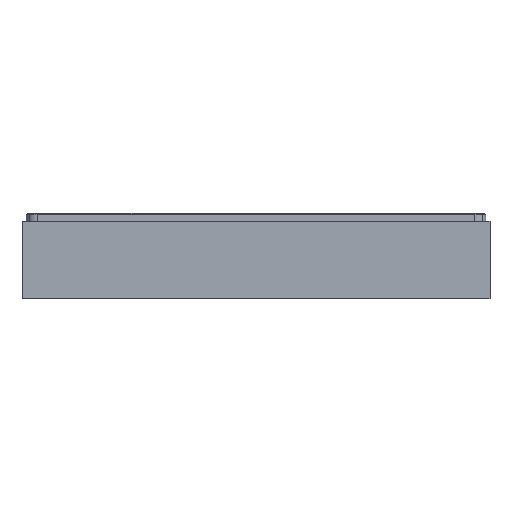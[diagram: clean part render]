
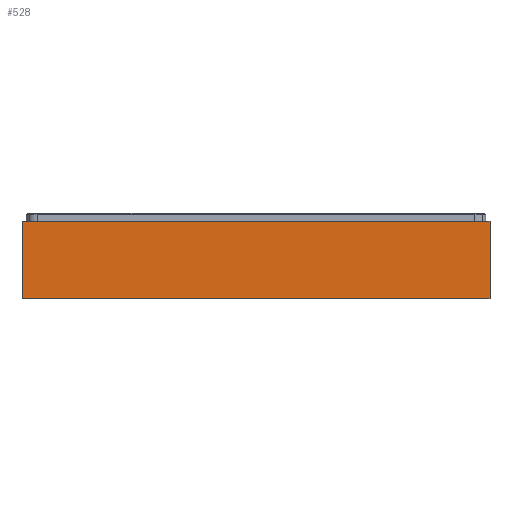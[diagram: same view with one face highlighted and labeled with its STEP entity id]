
A CAD part, left-side view. The second image highlights one B-rep face of the part: STEP entity #528.
In plain terms, the highlighted planar face has unit normal (-1, 0, 0).
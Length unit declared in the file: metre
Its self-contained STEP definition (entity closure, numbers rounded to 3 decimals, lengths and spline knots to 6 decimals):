
#528=ADVANCED_FACE('24:19754',(#1592),#1593,.T.);
#1592=FACE_OUTER_BOUND('',#3160,.T.);
#1593=PLANE('',#3161);
#3160=EDGE_LOOP('',(#7805,#7806,#7807,#7808));
#3161=AXIS2_PLACEMENT_3D('',#7809,#7810,#7811);
#7805=ORIENTED_EDGE('',*,*,#10435,.T.);
#7806=ORIENTED_EDGE('',*,*,#10436,.T.);
#7807=ORIENTED_EDGE('',*,*,#10437,.F.);
#7808=ORIENTED_EDGE('',*,*,#10285,.F.);
#7809=CARTESIAN_POINT('',(-0.0635,0.0,0.0));
#7810=DIRECTION('',(-1.0,-0.0,0.0));
#7811=DIRECTION('',(0.0,0.0,1.0));
#10285=EDGE_CURVE('24:22814',#14331,#14333,#14334,.T.);
#10435=EDGE_CURVE('24:23264',#14331,#14581,#14583,.T.);
#10436=EDGE_CURVE('24:23267',#14581,#14584,#14585,.F.);
#10437=EDGE_CURVE('24:23270',#14333,#14584,#14586,.T.);
#14331=VERTEX_POINT('',#19933);
#14333=VERTEX_POINT('',#19936);
#14334=LINE('',#19937,#19938);
#14581=VERTEX_POINT('',#20333);
#14583=LINE('',#20336,#20337);
#14584=VERTEX_POINT('',#20338);
#14585=LINE('',#20339,#20340);
#14586=LINE('',#20341,#20342);
#19933=CARTESIAN_POINT('',(-0.0635,-0.0635,0.0));
#19936=CARTESIAN_POINT('',(-0.0635,0.0635,0.0));
#19937=CARTESIAN_POINT('',(-0.0635,-0.0635,0.0));
#19938=VECTOR('',#23762,1.0);
#20333=CARTESIAN_POINT('',(-0.0635,-0.0635,0.021));
#20336=CARTESIAN_POINT('',(-0.0635,-0.0635,0.0));
#20337=VECTOR('',#23912,1.0);
#20338=CARTESIAN_POINT('',(-0.0635,0.0635,0.021));
#20339=CARTESIAN_POINT('',(-0.0635,0.0,0.021));
#20340=VECTOR('',#23913,1.0);
#20341=CARTESIAN_POINT('',(-0.0635,0.0635,0.0));
#20342=VECTOR('',#23914,1.0);
#23762=DIRECTION('',(0.0,1.0,0.0));
#23912=DIRECTION('',(0.0,0.0,1.0));
#23913=DIRECTION('',(0.0,-1.0,0.0));
#23914=DIRECTION('',(0.0,0.0,1.0));
